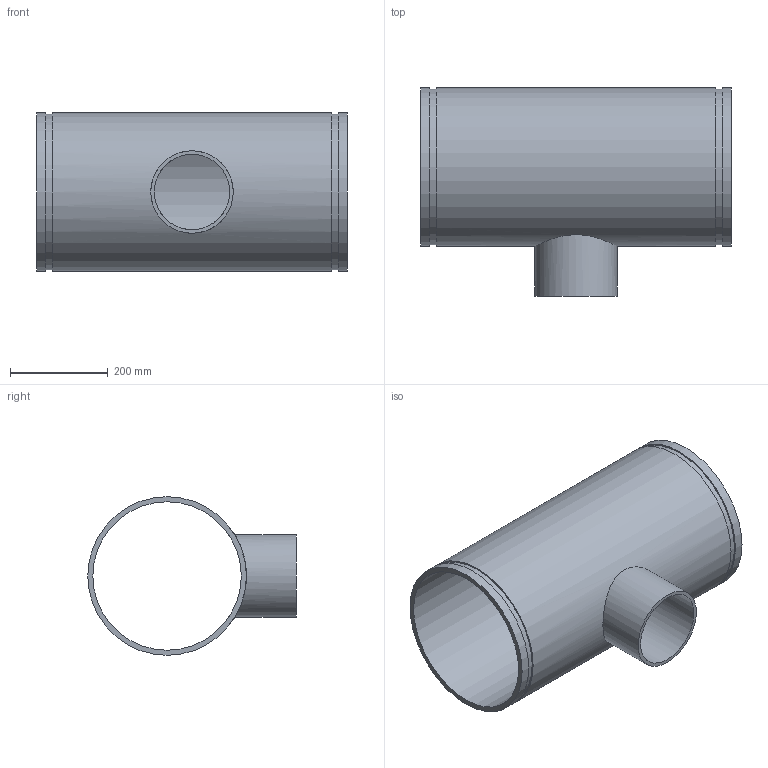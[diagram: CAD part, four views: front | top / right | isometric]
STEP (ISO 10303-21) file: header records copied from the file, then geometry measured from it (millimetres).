
FILE_DESCRIPTION(/* description */ ('VIC REDUCING TEE No 29T FFT (OGSxMPT)','CAx-IF Rec.Pracs.---Representation and Presentation of Product Manufacturing Information (PMI)---4.0---2014-10-13'),/* implementation_level */ '2;1');
FILE_NAME(/* name */ 'C:\Users\kkamble\AppData\Roaming\Autodesk\ApplicationPlugins\Back Up\Victaulic_IPS_Tee Reducing_No 29T FFT (OGSxMPT)\Victaulic_IPS_Tee Reducing_No 29T FFT (OGSxMPT)_12.0x06.0 (300x150).stp',/* time_stamp */ '2020-09-16T22:39:22+05:00',/* author */ ('CORINNE GRAY'),/* organization */ ('Victaulic'),/* preprocessor_version */ 'ST-DEVELOPER v17.2',/* originating_system */ 'Autodesk Inventor 2019',/* authorisation */ '');
FILE_SCHEMA (('AP242_MANAGED_MODEL_BASED_3D_ENGINEERING_MIM_LF { 1 0 10303 442 1 1 4 }'));
Length unit declared in the file: inch
Products named in the file (1): 29 FFT-12.0x06.0
Bounding box: 635 x 425.58 x 323.85 mm (x, y, z)
Volume: 6584822.1 mm3; surface area: 1362372.3 mm2
Topology: 1 solids, 1 shells, 15 faces, 32 edges, 24 vertices
Faces by surface type: cylinder 8, plane 7
Full cylindrical faces by diameter (mm): 154.051 x1, 168.275 x1, 303.225 x1, 318.287 x2, 323.85 x3
Entity records: 709 total; most frequent: CARTESIAN_POINT 221, DIRECTION 106, ORIENTED_EDGE 64, AXIS2_PLACEMENT_3D 49, EDGE_CURVE 32, EDGE_LOOP 24, VERTEX_POINT 24, CIRCLE 20
